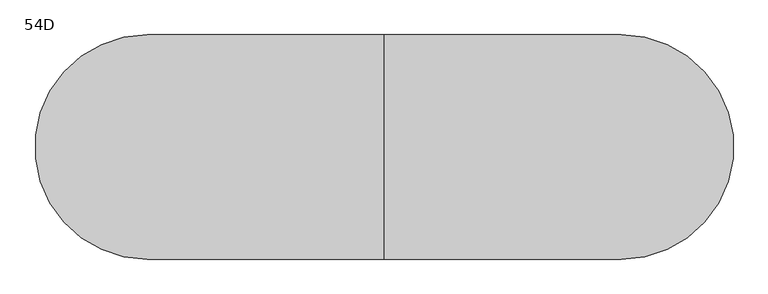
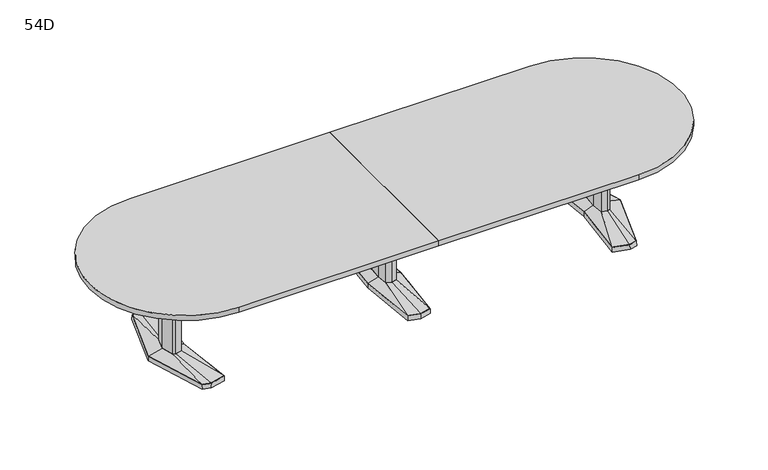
"""IFC4 building model written with IfcOpenShell, lengths in millimetres: furniture geometry, Coalesse_AM_Table_Conference_ETable2_Racetrack_14ft_AluminiumBase : 54D."""

from ifc_helpers import new_model, si_unit, point, frame, frame_2d, origin, place, context, project, spatial, polyline, circle_curve, trimmed, segment, composite_curve, outline, extrude, faceted_brep, source, transform, mapped, element, save
from ifc_brep_helpers import plane_surface, spline_surface, advanced_brep


def furniture_54d_941b465b(model_context):
    return source(origin(), model_context, "Body", "SolidModel", [
        faceted_brep([(-81.2333791, -433.8053819, 38.1), (0.0, -455.556576, 38.1), (81.2333791, -433.8053819, 38.1), (119.0564774, 0.0, 38.1), (81.2333791, 433.8053819, 38.1), (0.0, 455.556576, 38.1), (-81.2333791, 433.8053819, 38.1), (-119.0564774, 0.0, 38.1), (-82.7182795, -435.0512063, 3.175), (-120.65, 0.0, 3.175), (-82.7182795, 435.0512063, 3.175), (0.0, 457.2, 3.175), (82.7182795, 435.0512063, 3.175), (120.65, 0.0, 3.175), (82.7182795, -435.0512063, 3.175), (0.0, -457.2, 3.175), (0.0, 429.2617927, 3.175), (-77.9676806, 408.3850278, 3.175), (-74.7019821, 382.9646737, 3.175), (0.0, 402.9670094, 3.175), (74.7019821, 382.9646737, 3.175), (77.9676806, 408.3850278, 3.175), (0.0, -429.2617927, 3.175), (77.9676806, -408.3850278, 3.175), (74.7019821, -382.9646737, 3.175), (0.0, -402.9670094, 3.175), (-74.7019821, -382.9646737, 3.175), (-77.9676806, -408.3850278, 3.175), (-71.8574262, 114.6326257, 3.175), (-82.5426076, 0.0, 3.175), (-71.8574262, -114.6326257, 3.175), (0.0, -133.8761372, 3.175), (71.8574262, -114.6326257, 3.175), (82.5426076, 0.0, 3.175), (71.8574262, 114.6326257, 3.175), (0.0, 133.8761372, 3.175), (0.0, 429.2617927, 0.0), (77.9676806, 408.3850278, 0.0), (74.7019821, 382.9646737, 0.0), (0.0, 402.9670094, 0.0), (-74.7019821, 382.9646737, 0.0), (-77.9676806, 408.3850278, 0.0), (0.0, -429.2617927, 0.0), (-77.9676806, -408.3850278, 0.0), (-74.7019821, -382.9646737, 0.0), (0.0, -402.9670094, 0.0), (74.7019821, -382.9646737, 0.0), (77.9676806, -408.3850278, 0.0), (-71.8574262, 114.6326257, 0.0), (0.0, 133.8761372, 0.0), (71.8574262, 114.6326257, 0.0), (82.5426076, 0.0, 0.0), (71.8574262, -114.6326257, 0.0), (0.0, -133.8761372, 0.0), (-71.8574262, -114.6326257, 0.0), (-82.5426076, 0.0, 0.0)], [[[0, 1, 2, 3, 4, 5, 6, 7]], [[8, 9, 10, 11, 12, 13, 14, 15], [16, 17, 18, 19, 20, 21], [22, 23, 24, 25, 26, 27], [28, 29, 30, 31, 32, 33, 34, 35]], [[1, 0, 8, 15]], [[2, 1, 15, 14]], [[3, 2, 14, 13]], [[4, 3, 13, 12]], [[5, 4, 12, 11]], [[6, 5, 11, 10]], [[7, 6, 10, 9]], [[0, 7, 9, 8]], [[36, 37, 38, 39, 40, 41]], [[42, 43, 44, 45, 46, 47]], [[48, 49, 50, 51, 52, 53, 54, 55]], [[36, 41, 17, 16]], [[41, 40, 18, 17]], [[40, 39, 19, 18]], [[39, 38, 20, 19]], [[38, 37, 21, 20]], [[37, 36, 16, 21]], [[42, 47, 23, 22]], [[47, 46, 24, 23]], [[46, 45, 25, 24]], [[45, 44, 26, 25]], [[44, 43, 27, 26]], [[43, 42, 22, 27]], [[48, 55, 29, 28]], [[55, 54, 30, 29]], [[54, 53, 31, 30]], [[53, 52, 32, 31]], [[52, 51, 33, 32]], [[51, 50, 34, 33]], [[50, 49, 35, 34]], [[49, 48, 28, 35]]]),
        faceted_brep([(-36.3832834, 84.6900825, 698.5), (-44.2774487, 0.0, 698.5), (-36.3832834, -84.6900825, 698.5), (0.0, -94.4335728, 698.5), (36.3832834, -84.6900825, 698.5), (44.2774487, 0.0, 698.5), (36.3832834, 84.6900825, 698.5), (0.0, 94.4335728, 698.5), (-36.3832834, 84.6900825, 63.5), (0.0, 94.4335728, 63.5), (36.3832834, 84.6900825, 63.5), (44.2774487, 0.0, 63.5), (36.3832834, -84.6900825, 63.5), (0.0, -94.4335728, 63.5), (-36.3832834, -84.6900825, 63.5), (-44.2774487, 0.0, 63.5)], [[[0, 1, 2, 3, 4, 5, 6, 7]], [[8, 9, 10, 11, 12, 13, 14, 15]], [[1, 0, 8, 15]], [[2, 1, 15, 14]], [[3, 2, 14, 13]], [[4, 3, 13, 12]], [[5, 4, 12, 11]], [[6, 5, 11, 10]], [[7, 6, 10, 9]], [[0, 7, 9, 8]]]),
        advanced_brep(
        [(-36.3832834, 84.6900825, 63.5), (-44.2774487, 0.0, 63.5), (-36.3832834, -84.6900825, 63.5), (0.0, -94.4335728, 63.5), (36.3832834, -84.6900825, 63.5), (44.2774487, 0.0, 63.5), (36.3832834, 84.6900825, 63.5), (0.0, 94.4335728, 63.5), (-81.2333791, 433.8053819, 38.1), (0.0, 455.556576, 38.1), (81.2333791, 433.8053819, 38.1), (119.0564774, 0.0, 38.1), (81.2333791, -433.8053819, 38.1), (0.0, -455.556576, 38.1), (-81.2333791, -433.8053819, 38.1), (-119.0564774, 0.0, 38.1)],
        [
            (0, 1),
            (1, 2),
            (2, 3),
            (3, 4),
            (4, 5),
            (5, 6),
            (6, 7),
            (7, 0),
            (8, 9),
            (9, 10),
            (10, 11),
            (11, 12),
            (12, 13),
            (13, 14),
            (14, 15),
            (15, 8),
            (15, 1),
            (0, 8),
            (14, 2),
            (13, 3),
            (12, 4),
            (11, 5),
            (10, 6),
            (9, 7),
        ],
        [
            plane_surface(frame((0.0, 0.0, 63.5), z_axis=(0.0, 0.0, 1.0000000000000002), x_axis=(-0.9659615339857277, -0.25868574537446, 0.0))),
            plane_surface(frame((0.0, 0.0, 38.1), z_axis=(0.0, 0.0, -1.0000000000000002), x_axis=(-0.9659615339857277, -0.25868574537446, 0.0))),
            spline_surface(1, 1, [[(-81.2333791, 433.8053819, 38.1), (-36.3832834, 84.6900825, 63.5)], [(-119.0564774, 0.0, 38.1), (-44.2774487, 0.0, 63.5)]], [2, 2], [2, 2], [0.0, 1.0], [0.0, 1.0]),
            spline_surface(1, 1, [[(-119.0564774, 0.0, 38.1), (-44.2774487, 0.0, 63.5)], [(-81.2333791, -433.8053819, 38.1), (-36.3832834, -84.6900825, 63.5)]], [2, 2], [2, 2], [0.0, 1.0], [0.0, 1.0]),
            spline_surface(1, 1, [[(-81.2333791, -433.8053819, 38.1), (-36.3832834, -84.6900825, 63.5)], [(0.0, -455.556576, 38.1), (0.0, -94.4335728, 63.5)]], [2, 2], [2, 2], [0.0, 1.0], [0.0, 1.0]),
            spline_surface(1, 1, [[(0.0, -455.556576, 38.1), (0.0, -94.4335728, 63.5)], [(81.2333791, -433.8053819, 38.1), (36.3832834, -84.6900825, 63.5)]], [2, 2], [2, 2], [0.0, 1.0], [0.0, 1.0]),
            spline_surface(1, 1, [[(81.2333791, -433.8053819, 38.1), (36.3832834, -84.6900825, 63.5)], [(119.0564774, 0.0, 38.1), (44.2774487, 0.0, 63.5)]], [2, 2], [2, 2], [0.0, 1.0], [0.0, 1.0]),
            spline_surface(1, 1, [[(119.0564774, 0.0, 38.1), (44.2774487, 0.0, 63.5)], [(81.2333791, 433.8053819, 38.1), (36.3832834, 84.6900825, 63.5)]], [2, 2], [2, 2], [0.0, 1.0], [0.0, 1.0]),
            spline_surface(1, 1, [[(81.2333791, 433.8053819, 38.1), (36.3832834, 84.6900825, 63.5)], [(0.0, 455.556576, 38.1), (0.0, 94.4335728, 63.5)]], [2, 2], [2, 2], [0.0, 1.0], [0.0, 1.0]),
            spline_surface(1, 1, [[(0.0, 455.556576, 38.1), (0.0, 94.4335728, 63.5)], [(-81.2333791, 433.8053819, 38.1), (-36.3832834, 84.6900825, 63.5)]], [2, 2], [2, 2], [0.0, 1.0], [0.0, 1.0]),
        ],
        [
            (0, [[1, 2, 3, 4, 5, 6, 7, 8]]),
            (1, [[9, 10, 11, 12, 13, 14, 15, 16]]),
            (2, [[-16, 17, -1, 18]]),
            (3, [[-15, 19, -2, -17]]),
            (4, [[-14, 20, -3, -19]]),
            (5, [[-13, 21, -4, -20]]),
            (6, [[-12, 22, -5, -21]]),
            (7, [[-11, 23, -6, -22]]),
            (8, [[-10, 24, -7, -23]]),
            (9, [[-9, -18, -8, -24]]),
        ],
    ),
        faceted_brep([(1515.4306835, 455.5848221, 38.1), (1405.8531277, 426.2263816, 38.1), (1447.0163717, 0.0, 38.1), (1405.8531277, -426.2263816, 38.1), (1515.4306835, -455.5848221, 38.1), (1571.5570396, -440.5478297, 38.1), (1708.8684269, 0.0, 38.1), (1571.5570396, 440.5478297, 38.1), (1515.4306754, 457.2283104, 3.175), (1572.8124472, 441.8549756, 3.175), (1710.53125, 0.0, 3.175), (1572.8124472, -441.8549756, 3.175), (1515.4306754, -457.2283104, 3.175), (1404.14375, -427.4118891, 3.175), (1445.4214856, 0.0, 3.175), (1404.14375, 427.4118891, 3.175), (1519.020115, 428.3273875, 3.175), (1413.9718228, 402.1057253, 3.175), (1422.090518, 377.985069, 3.175), (1522.6095466, 401.0699529, 3.175), (1573.1691725, 387.524361, 3.175), (1572.3631061, 414.0360954, 3.175), (1519.020115, -428.3273875, 3.175), (1572.3631061, -414.0360954, 3.175), (1573.1691725, -387.524361, 3.175), (1522.6095466, -401.0699529, 3.175), (1422.090518, -377.985069, 3.175), (1413.9718228, -402.1057253, 3.175), (1645.6153621, 0.0, 3.175), (1613.3459611, 120.4193755, 3.175), (1564.6987222, 133.471665, 3.175), (1484.8180526, 119.4176561, 3.175), (1473.6868466, 0.0, 3.175), (1484.8180526, -119.4176561, 3.175), (1564.6987222, -133.471665, 3.175), (1613.3459611, -120.4193755, 3.175), (1519.020115, 428.3273875, 0.0), (1572.3631061, 414.0360954, 0.0), (1573.1691725, 387.524361, 0.0), (1522.6095466, 401.0699529, 0.0), (1422.090518, 377.985069, 0.0), (1413.9718228, 402.1057253, 0.0), (1519.020115, -428.3273875, 0.0), (1413.9718228, -402.1057253, 0.0), (1422.090518, -377.985069, 0.0), (1522.6095466, -401.0699529, 0.0), (1573.1691725, -387.524361, 0.0), (1572.3631061, -414.0360954, 0.0), (1645.6153621, 0.0, 0.0), (1613.3459611, -120.4193755, 0.0), (1564.6987222, -133.471665, 0.0), (1484.8180526, -119.4176561, 0.0), (1473.6868466, 0.0, 0.0), (1484.8180526, 119.4176561, 0.0), (1564.6987222, 133.471665, 0.0), (1613.3459611, 120.4193755, 0.0)], [[[0, 1, 2, 3, 4, 5, 6, 7]], [[8, 9, 10, 11, 12, 13, 14, 15], [16, 17, 18, 19, 20, 21], [22, 23, 24, 25, 26, 27], [28, 29, 30, 31, 32, 33, 34, 35]], [[7, 9, 8, 0]], [[6, 10, 9, 7]], [[5, 11, 10, 6]], [[4, 12, 11, 5]], [[3, 13, 12, 4]], [[2, 14, 13, 3]], [[1, 15, 14, 2]], [[0, 8, 15, 1]], [[36, 37, 38, 39, 40, 41]], [[42, 43, 44, 45, 46, 47]], [[48, 49, 50, 51, 52, 53, 54, 55]], [[36, 16, 21, 37]], [[37, 21, 20, 38]], [[38, 20, 19, 39]], [[39, 19, 18, 40]], [[40, 18, 17, 41]], [[41, 17, 16, 36]], [[42, 22, 27, 43]], [[43, 27, 26, 44]], [[44, 26, 25, 45]], [[45, 25, 24, 46]], [[46, 24, 23, 47]], [[47, 23, 22, 42]], [[48, 28, 35, 49]], [[49, 35, 34, 50]], [[50, 34, 33, 51]], [[51, 33, 32, 52]], [[52, 32, 31, 53]], [[53, 31, 30, 54]], [[54, 30, 29, 55]], [[55, 29, 28, 48]]]),
        faceted_brep([(1606.1710836, 0.0, 698.5), (1582.2358546, 89.3188359, 698.5), (1565.3824984, 93.8406728, 698.5), (1562.9826511, 94.4845635, 698.5), (1520.055146, 86.9320037, 698.5), (1511.9520056, 0.0, 698.5), (1520.055146, -86.9320037, 698.5), (1562.9826511, -94.4845635, 698.5), (1565.3824984, -93.8406728, 698.5), (1582.2358546, -89.3188359, 698.5), (1606.1710836, 0.0, 63.5), (1582.2358546, -89.3188359, 63.5), (1565.3824984, -93.8406728, 63.5), (1562.9826511, -94.4845635, 63.5), (1520.055146, -86.9320037, 63.5), (1511.9520056, 0.0, 63.5), (1520.055146, 86.9320037, 63.5), (1562.9826511, 94.4845635, 63.5), (1565.3824984, 93.8406728, 63.5), (1582.2358546, 89.3188359, 63.5)], [[[0, 1, 2, 3, 4, 5, 6, 7, 8, 9]], [[10, 11, 12, 13, 14, 15, 16, 17, 18, 19]], [[9, 11, 10, 0]], [[8, 12, 11, 9]], [[7, 13, 12, 8]], [[6, 14, 13, 7]], [[5, 15, 14, 6]], [[4, 16, 15, 5]], [[3, 17, 16, 4]], [[2, 18, 17, 3]], [[1, 19, 18, 2]], [[0, 10, 19, 1]]]),
        advanced_brep(
        [(1562.9826511, 94.4845635, 63.5), (1520.055146, 86.9320037, 63.5), (1511.9520056, 0.0, 63.5), (1520.055146, -86.9320037, 63.5), (1562.9826511, -94.4845635, 63.5), (1582.2358546, -89.3188359, 63.5), (1606.1710836, 0.0, 63.5), (1582.2358546, 89.3188359, 63.5), (1515.4306835, 455.5848221, 38.1), (1571.5570396, 440.5478297, 38.1), (1708.8684269, 0.0, 38.1), (1571.5570396, -440.5478297, 38.1), (1515.4306835, -455.5848221, 38.1), (1405.8531277, -426.2263816, 38.1), (1447.0163717, 0.0, 38.1), (1405.8531277, 426.2263816, 38.1)],
        [
            (0, 1),
            (1, 2),
            (2, 3),
            (3, 4),
            (4, 5),
            (5, 6),
            (6, 7),
            (7, 0),
            (8, 9),
            (9, 10),
            (10, 11),
            (11, 12),
            (12, 13),
            (13, 14),
            (14, 15),
            (15, 8),
            (8, 0),
            (7, 9),
            (6, 10),
            (5, 11),
            (4, 12),
            (3, 13),
            (2, 14),
            (1, 15),
        ],
        [
            plane_surface(frame((1556.0837991, 0.0, 63.5), z_axis=(0.0, 0.0, 1.0), x_axis=(-0.25884244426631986, -0.9659195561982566, 0.0))),
            plane_surface(frame((1517.6958125, 0.0, 38.1), z_axis=(0.0, 0.0, -1.0), x_axis=(-0.25884244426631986, -0.9659195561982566, 0.0))),
            spline_surface(1, 1, [[(1515.4306835, 455.5848221, 38.1), (1571.5570396, 440.5478297, 38.1)], [(1562.9826511, 94.4845635, 63.5), (1582.2358546, 89.3188359, 63.5)]], [2, 2], [2, 2], [0.0, 1.0], [0.0, 1.0]),
            spline_surface(1, 1, [[(1571.5570396, 440.5478297, 38.1), (1708.8684269, 0.0, 38.1)], [(1582.2358546, 89.3188359, 63.5), (1606.1710836, 0.0, 63.5)]], [2, 2], [2, 2], [0.0, 1.0], [0.0, 1.0]),
            spline_surface(1, 1, [[(1708.8684269, 0.0, 38.1), (1571.5570396, -440.5478297, 38.1)], [(1606.1710836, 0.0, 63.5), (1582.2358546, -89.3188359, 63.5)]], [2, 2], [2, 2], [0.0, 1.0], [0.0, 1.0]),
            spline_surface(1, 1, [[(1571.5570396, -440.5478297, 38.1), (1515.4306835, -455.5848221, 38.1)], [(1582.2358546, -89.3188359, 63.5), (1562.9826511, -94.4845635, 63.5)]], [2, 2], [2, 2], [0.0, 1.0], [0.0, 1.0]),
            spline_surface(1, 1, [[(1515.4306835, -455.5848221, 38.1), (1405.8531277, -426.2263816, 38.1)], [(1562.9826511, -94.4845635, 63.5), (1520.055146, -86.9320037, 63.5)]], [2, 2], [2, 2], [0.0, 1.0], [0.0, 1.0]),
            spline_surface(1, 1, [[(1405.8531277, -426.2263816, 38.1), (1447.0163717, 0.0, 38.1)], [(1520.055146, -86.9320037, 63.5), (1511.9520056, 0.0, 63.5)]], [2, 2], [2, 2], [0.0, 1.0], [0.0, 1.0]),
            spline_surface(1, 1, [[(1447.0163717, 0.0, 38.1), (1405.8531277, 426.2263816, 38.1)], [(1511.9520056, 0.0, 63.5), (1520.055146, 86.9320037, 63.5)]], [2, 2], [2, 2], [0.0, 1.0], [0.0, 1.0]),
            spline_surface(1, 1, [[(1405.8531277, 426.2263816, 38.1), (1515.4306835, 455.5848221, 38.1)], [(1520.055146, 86.9320037, 63.5), (1562.9826511, 94.4845635, 63.5)]], [2, 2], [2, 2], [0.0, 1.0], [0.0, 1.0]),
        ],
        [
            (0, [[1, 2, 3, 4, 5, 6, 7, 8]]),
            (1, [[9, 10, 11, 12, 13, 14, 15, 16]]),
            (2, [[17, -8, 18, -9]]),
            (3, [[-18, -7, 19, -10]]),
            (4, [[-19, -6, 20, -11]]),
            (5, [[-20, -5, 21, -12]]),
            (6, [[-21, -4, 22, -13]]),
            (7, [[-22, -3, 23, -14]]),
            (8, [[-23, -2, 24, -15]]),
            (9, [[-24, -1, -17, -16]]),
        ],
    ),
        faceted_brep([(-1515.4306835, 455.5848221, 38.1), (-1571.5570396, 440.5478297, 38.1), (-1708.8684269, 0.0, 38.1), (-1571.5570396, -440.5478297, 38.1), (-1515.4306835, -455.5848221, 38.1), (-1405.8531277, -426.2263816, 38.1), (-1447.0163717, 0.0, 38.1), (-1405.8531277, 426.2263816, 38.1), (-1515.4306754, 457.2283104, 3.175), (-1404.14375, 427.4118891, 3.175), (-1445.4214856, 0.0, 3.175), (-1404.14375, -427.4118891, 3.175), (-1515.4306754, -457.2283104, 3.175), (-1572.8124472, -441.8549756, 3.175), (-1710.53125, 0.0, 3.175), (-1572.8124472, 441.8549756, 3.175), (-1519.020115, 428.3273875, 3.175), (-1572.3631061, 414.0360954, 3.175), (-1573.1691725, 387.524361, 3.175), (-1522.6095466, 401.0699529, 3.175), (-1422.090518, 377.985069, 3.175), (-1413.9718228, 402.1057253, 3.175), (-1519.020115, -428.3273875, 3.175), (-1413.9718228, -402.1057253, 3.175), (-1422.090518, -377.985069, 3.175), (-1522.6095466, -401.0699529, 3.175), (-1573.1691725, -387.524361, 3.175), (-1572.3631061, -414.0360954, 3.175), (-1645.6153621, 0.0, 3.175), (-1613.3459611, -120.4193755, 3.175), (-1564.6987222, -133.471665, 3.175), (-1484.8180526, -119.4176561, 3.175), (-1473.6868466, 0.0, 3.175), (-1484.8180526, 119.4176561, 3.175), (-1564.6987222, 133.471665, 3.175), (-1613.3459611, 120.4193755, 3.175), (-1519.020115, 428.3273875, 0.0), (-1413.9718228, 402.1057253, 0.0), (-1422.090518, 377.985069, 0.0), (-1522.6095466, 401.0699529, 0.0), (-1573.1691725, 387.524361, 0.0), (-1572.3631061, 414.0360954, 0.0), (-1519.020115, -428.3273875, 0.0), (-1572.3631061, -414.0360954, 0.0), (-1573.1691725, -387.524361, 0.0), (-1522.6095466, -401.0699529, 0.0), (-1422.090518, -377.985069, 0.0), (-1413.9718228, -402.1057253, 0.0), (-1645.6153621, 0.0, 0.0), (-1613.3459611, 120.4193755, 0.0), (-1564.6987222, 133.471665, 0.0), (-1484.8180526, 119.4176561, 0.0), (-1473.6868466, 0.0, 0.0), (-1484.8180526, -119.4176561, 0.0), (-1564.6987222, -133.471665, 0.0), (-1613.3459611, -120.4193755, 0.0)], [[[0, 1, 2, 3, 4, 5, 6, 7]], [[8, 9, 10, 11, 12, 13, 14, 15], [16, 17, 18, 19, 20, 21], [22, 23, 24, 25, 26, 27], [28, 29, 30, 31, 32, 33, 34, 35]], [[1, 0, 8, 15]], [[2, 1, 15, 14]], [[3, 2, 14, 13]], [[4, 3, 13, 12]], [[5, 4, 12, 11]], [[6, 5, 11, 10]], [[7, 6, 10, 9]], [[0, 7, 9, 8]], [[36, 37, 38, 39, 40, 41]], [[42, 43, 44, 45, 46, 47]], [[48, 49, 50, 51, 52, 53, 54, 55]], [[36, 41, 17, 16]], [[41, 40, 18, 17]], [[40, 39, 19, 18]], [[39, 38, 20, 19]], [[38, 37, 21, 20]], [[37, 36, 16, 21]], [[42, 47, 23, 22]], [[47, 46, 24, 23]], [[46, 45, 25, 24]], [[45, 44, 26, 25]], [[44, 43, 27, 26]], [[43, 42, 22, 27]], [[48, 55, 29, 28]], [[55, 54, 30, 29]], [[54, 53, 31, 30]], [[53, 52, 32, 31]], [[52, 51, 33, 32]], [[51, 50, 34, 33]], [[50, 49, 35, 34]], [[49, 48, 28, 35]]]),
        faceted_brep([(-1606.1710836, 0.0, 698.5), (-1582.2358546, -89.3188359, 698.5), (-1565.3824984, -93.8406728, 698.5), (-1562.9826511, -94.4845635, 698.5), (-1520.055146, -86.9320037, 698.5), (-1511.9520056, 0.0, 698.5), (-1520.055146, 86.9320037, 698.5), (-1562.9826511, 94.4845635, 698.5), (-1565.3824984, 93.8406728, 698.5), (-1582.2358546, 89.3188359, 698.5), (-1606.1710836, 0.0, 63.5), (-1582.2358546, 89.3188359, 63.5), (-1565.3824984, 93.8406728, 63.5), (-1562.9826511, 94.4845635, 63.5), (-1520.055146, 86.9320037, 63.5), (-1511.9520056, 0.0, 63.5), (-1520.055146, -86.9320037, 63.5), (-1562.9826511, -94.4845635, 63.5), (-1565.3824984, -93.8406728, 63.5), (-1582.2358546, -89.3188359, 63.5)], [[[0, 1, 2, 3, 4, 5, 6, 7, 8, 9]], [[10, 11, 12, 13, 14, 15, 16, 17, 18, 19]], [[1, 0, 10, 19]], [[2, 1, 19, 18]], [[3, 2, 18, 17]], [[4, 3, 17, 16]], [[5, 4, 16, 15]], [[6, 5, 15, 14]], [[7, 6, 14, 13]], [[8, 7, 13, 12]], [[9, 8, 12, 11]], [[0, 9, 11, 10]]]),
        advanced_brep(
        [(-1562.9826511, 94.4845635, 63.5), (-1582.2358546, 89.3188359, 63.5), (-1606.1710836, 0.0, 63.5), (-1582.2358546, -89.3188359, 63.5), (-1562.9826511, -94.4845635, 63.5), (-1520.055146, -86.9320037, 63.5), (-1511.9520056, 0.0, 63.5), (-1520.055146, 86.9320037, 63.5), (-1515.4306835, 455.5848221, 38.1), (-1405.8531277, 426.2263816, 38.1), (-1447.0163717, 0.0, 38.1), (-1405.8531277, -426.2263816, 38.1), (-1515.4306835, -455.5848221, 38.1), (-1571.5570396, -440.5478297, 38.1), (-1708.8684269, 0.0, 38.1), (-1571.5570396, 440.5478297, 38.1)],
        [
            (0, 1),
            (1, 2),
            (2, 3),
            (3, 4),
            (4, 5),
            (5, 6),
            (6, 7),
            (7, 0),
            (8, 9),
            (9, 10),
            (10, 11),
            (11, 12),
            (12, 13),
            (13, 14),
            (14, 15),
            (15, 8),
            (15, 1),
            (0, 8),
            (14, 2),
            (13, 3),
            (12, 4),
            (11, 5),
            (10, 6),
            (9, 7),
        ],
        [
            plane_surface(frame((-1556.0837991, 0.0, 63.5), z_axis=(0.0, 0.0, 1.0), x_axis=(0.25884244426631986, -0.9659195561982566, 0.0))),
            plane_surface(frame((-1517.6958125, 0.0, 38.1), z_axis=(0.0, 0.0, -1.0), x_axis=(0.25884244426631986, -0.9659195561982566, 0.0))),
            spline_surface(1, 1, [[(-1515.4306835, 455.5848221, 38.1), (-1562.9826511, 94.4845635, 63.5)], [(-1571.5570396, 440.5478297, 38.1), (-1582.2358546, 89.3188359, 63.5)]], [2, 2], [2, 2], [0.0, 1.0], [0.0, 1.0]),
            spline_surface(1, 1, [[(-1571.5570396, 440.5478297, 38.1), (-1582.2358546, 89.3188359, 63.5)], [(-1708.8684269, 0.0, 38.1), (-1606.1710836, 0.0, 63.5)]], [2, 2], [2, 2], [0.0, 1.0], [0.0, 1.0]),
            spline_surface(1, 1, [[(-1708.8684269, 0.0, 38.1), (-1606.1710836, 0.0, 63.5)], [(-1571.5570396, -440.5478297, 38.1), (-1582.2358546, -89.3188359, 63.5)]], [2, 2], [2, 2], [0.0, 1.0], [0.0, 1.0]),
            spline_surface(1, 1, [[(-1571.5570396, -440.5478297, 38.1), (-1582.2358546, -89.3188359, 63.5)], [(-1515.4306835, -455.5848221, 38.1), (-1562.9826511, -94.4845635, 63.5)]], [2, 2], [2, 2], [0.0, 1.0], [0.0, 1.0]),
            spline_surface(1, 1, [[(-1515.4306835, -455.5848221, 38.1), (-1562.9826511, -94.4845635, 63.5)], [(-1405.8531277, -426.2263816, 38.1), (-1520.055146, -86.9320037, 63.5)]], [2, 2], [2, 2], [0.0, 1.0], [0.0, 1.0]),
            spline_surface(1, 1, [[(-1405.8531277, -426.2263816, 38.1), (-1520.055146, -86.9320037, 63.5)], [(-1447.0163717, 0.0, 38.1), (-1511.9520056, 0.0, 63.5)]], [2, 2], [2, 2], [0.0, 1.0], [0.0, 1.0]),
            spline_surface(1, 1, [[(-1447.0163717, 0.0, 38.1), (-1511.9520056, 0.0, 63.5)], [(-1405.8531277, 426.2263816, 38.1), (-1520.055146, 86.9320037, 63.5)]], [2, 2], [2, 2], [0.0, 1.0], [0.0, 1.0]),
            spline_surface(1, 1, [[(-1405.8531277, 426.2263816, 38.1), (-1520.055146, 86.9320037, 63.5)], [(-1515.4306835, 455.5848221, 38.1), (-1562.9826511, 94.4845635, 63.5)]], [2, 2], [2, 2], [0.0, 1.0], [0.0, 1.0]),
        ],
        [
            (0, [[1, 2, 3, 4, 5, 6, 7, 8]]),
            (1, [[9, 10, 11, 12, 13, 14, 15, 16]]),
            (2, [[-16, 17, -1, 18]]),
            (3, [[-15, 19, -2, -17]]),
            (4, [[-14, 20, -3, -19]]),
            (5, [[-13, 21, -4, -20]]),
            (6, [[-12, 22, -5, -21]]),
            (7, [[-11, 23, -6, -22]]),
            (8, [[-10, 24, -7, -23]]),
            (9, [[-9, -18, -8, -24]]),
        ],
    ),
        extrude(outline(polyline([(96.8375, 698.5), (103.1875, 698.5), (103.1875, 476.25), (-103.1875, 476.25), (-103.1875, 698.5), (-96.8375, 698.5), (-96.8375, 482.6), (96.8375, 482.6), (96.8375, 698.5)])), frame((44.2774487, 0.0, 0.0), z_axis=(1.0, 0.0, 0.0), x_axis=(0.0, 1.0, 0.0)), (0.0, 0.0, 1.0), 1467.8163013),
        extrude(outline(composite_curve([segment(trimmed(circle_curve(frame_2d((1447.8, 0.0)), 685.8), [point((1447.8, 685.8))], [point((1447.8, -685.8))], False, "CARTESIAN"), True, "CONTINUOUS"), segment(polyline([(1447.8, -685.8), (0.0, -685.8), (0.0, 685.8), (1447.8, 685.8)]), True, "CONTINUOUS")], self_intersect=False)), frame((0.0, 0.0, 698.5), z_axis=(0.0, 0.0, 1.0), x_axis=(1.0, 0.0, 0.0)), (0.0, 0.0, 1.0), 38.1),
        extrude(outline(composite_curve([segment(polyline([(0.0, 685.8), (0.0, -685.8), (-1447.8, -685.8)]), True, "CONTINUOUS"), segment(trimmed(circle_curve(frame_2d((-1447.8, 0.0)), 685.8), [point((-1447.8, -685.8))], [point((-1447.8, 685.8))], False, "CARTESIAN"), True, "CONTINUOUS"), segment(polyline([(-1447.8, 685.8), (0.0, 685.8)]), True, "CONTINUOUS")], self_intersect=False)), frame((0.0, 0.0, 698.5), z_axis=(0.0, 0.0, 1.0), x_axis=(1.0, 0.0, 0.0)), (0.0, 0.0, 1.0), 38.1),
        extrude(outline(polyline([(96.8375, 698.5), (103.1875, 698.5), (103.1875, 476.25), (-103.1875, 476.25), (-103.1875, 698.5), (-96.8375, 698.5), (-96.8375, 482.6), (96.8375, 482.6), (96.8375, 698.5)])), frame((-1512.09375, 0.0, 0.0), z_axis=(1.0, 0.0, 0.0), x_axis=(0.0, 1.0, 0.0)), (0.0, 0.0, 1.0), 1467.8163013),
    ])


if __name__ == "__main__":
    model = new_model("IFC4")
    model_context = context("Model", 3, world=origin())
    ifc_project = project(units=[si_unit("LENGTHUNIT", "METRE", prefix="MILLI")], contexts=[model_context])
    site = spatial("IfcSite", under=ifc_project)
    building = spatial("IfcBuilding", under=site)
    placement = place(None, origin())
    furniture_54d_shape = furniture_54d_941b465b(model_context)
    element("IfcFurniture", 1, ObjectType="Coalesse_AM_Table_Conference_ETable2_Racetrack_14ft_AluminiumBase : 54D", at=placement, inside=building, context=model_context, shape_type="MappedRepresentation", body=[
        mapped(furniture_54d_shape, transform((0.0, 0.0, 0.0), x_axis=(1.0, 0.0, 0.0), y_axis=(0.0, 1.0, 0.0), z_axis=(0.0, 0.0, 1.0))),
    ])
    save(model, "model.ifc")
